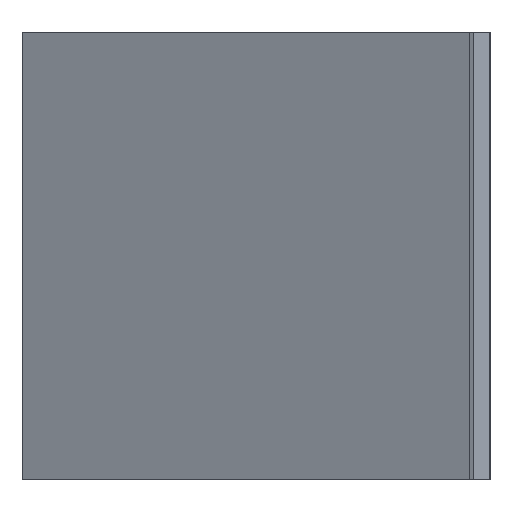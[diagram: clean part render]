
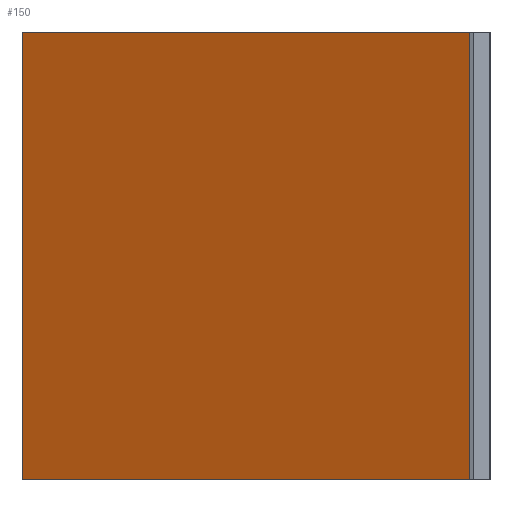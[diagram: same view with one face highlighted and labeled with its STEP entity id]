
A CAD part, left-side view. The second image highlights one B-rep face of the part: STEP entity #150.
In plain terms, the highlighted planar face has unit normal (0.896, -0.444, 0).
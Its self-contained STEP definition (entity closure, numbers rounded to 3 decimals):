
#98=CARTESIAN_POINT('Vertex',(20.,0.,0.)) ;
#101=CARTESIAN_POINT('Line Origine',(20.,0.,53.5)) ;
#105=CARTESIAN_POINT('Vertex',(20.,0.,107.)) ;
#120=CARTESIAN_POINT('Axis2P3D Location',(20.,0.,0.)) ;
#125=CARTESIAN_POINT('Line Origine',(46.5,53.5,0.)) ;
#129=CARTESIAN_POINT('Vertex',(73.,107.,0.)) ;
#132=CARTESIAN_POINT('Line Origine',(73.,107.,53.5)) ;
#136=CARTESIAN_POINT('Vertex',(73.,107.,107.)) ;
#139=CARTESIAN_POINT('Line Origine',(46.5,53.5,107.)) ;
#102=DIRECTION('Vector Direction',(0.,0.,1.)) ;
#121=DIRECTION('Axis2P3D Direction',(0.896,-0.444,0.)) ;
#122=DIRECTION('Axis2P3D XDirection',(0.444,0.896,0.)) ;
#126=DIRECTION('Vector Direction',(0.444,0.896,0.)) ;
#133=DIRECTION('Vector Direction',(0.,0.,1.)) ;
#140=DIRECTION('Vector Direction',(0.444,0.896,0.)) ;
#123=AXIS2_PLACEMENT_3D('Plane Axis2P3D',#120,#121,#122) ;
#145=ORIENTED_EDGE('',*,*,#107,.F.) ;
#146=ORIENTED_EDGE('',*,*,#131,.T.) ;
#147=ORIENTED_EDGE('',*,*,#138,.T.) ;
#148=ORIENTED_EDGE('',*,*,#143,.F.) ;
#103=VECTOR('Line Direction',#102,1.) ;
#127=VECTOR('Line Direction',#126,1.) ;
#134=VECTOR('Line Direction',#133,1.) ;
#141=VECTOR('Line Direction',#140,1.) ;
#150=ADVANCED_FACE('Extrude.1',(#149),#124,.T.) ;
#107=EDGE_CURVE('',#99,#106,#104,.T.) ;
#131=EDGE_CURVE('',#99,#130,#128,.T.) ;
#138=EDGE_CURVE('',#130,#137,#135,.T.) ;
#143=EDGE_CURVE('',#106,#137,#142,.T.) ;
#144=EDGE_LOOP('',(#145,#146,#147,#148)) ;
#149=FACE_OUTER_BOUND('',#144,.T.) ;
#104=LINE('Line',#101,#103) ;
#128=LINE('Line',#125,#127) ;
#135=LINE('Line',#132,#134) ;
#142=LINE('Line',#139,#141) ;
#124=PLANE('',#123) ;
#99=VERTEX_POINT('',#98) ;
#106=VERTEX_POINT('',#105) ;
#130=VERTEX_POINT('',#129) ;
#137=VERTEX_POINT('',#136) ;
